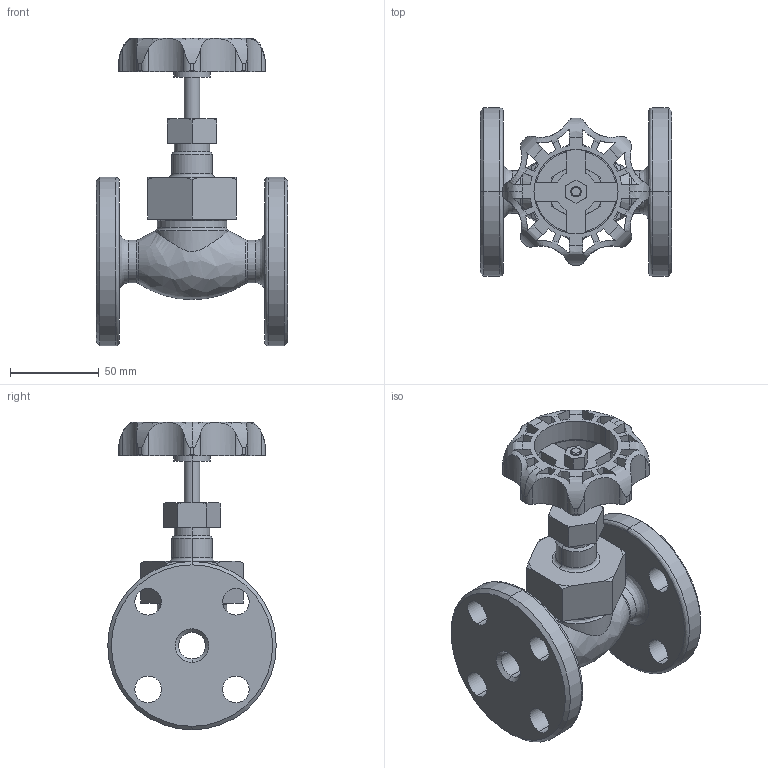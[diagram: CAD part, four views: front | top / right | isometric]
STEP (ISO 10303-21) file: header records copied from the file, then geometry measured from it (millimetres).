
FILE_DESCRIPTION( (''), '2;1');
FILE_NAME ('PC1027.9568.GLV-10F 15A_16302.stp','2025-07-28T11:34:38',(''),(''),'spGate 19.8.4 (****-****-****-****)','','');
FILE_SCHEMA (('AUTOMOTIVE_DESIGN'));
Length unit declared in the file: millimetre
Bounding box: 108 x 95 x 173.49 mm (x, y, z)
Volume: 343582.4 mm3; surface area: 83019.4 mm2
Topology: 1 solids, 1 shells, 248 faces, 714 edges, 464 vertices
Faces by surface type: cylinder 113, plane 81, bspline 54
Entity records: 15222 total; most frequent: CARTESIAN_POINT 3595, ORIENTED_EDGE 1428, DIRECTION 1172, COLOUR_RGB 963, PRESENTATION_STYLE_ASSIGNMENT 963, STYLED_ITEM 963, EDGE_CURVE 714, DRAUGHTING_PRE_DEFINED_CURVE_FONT 714
